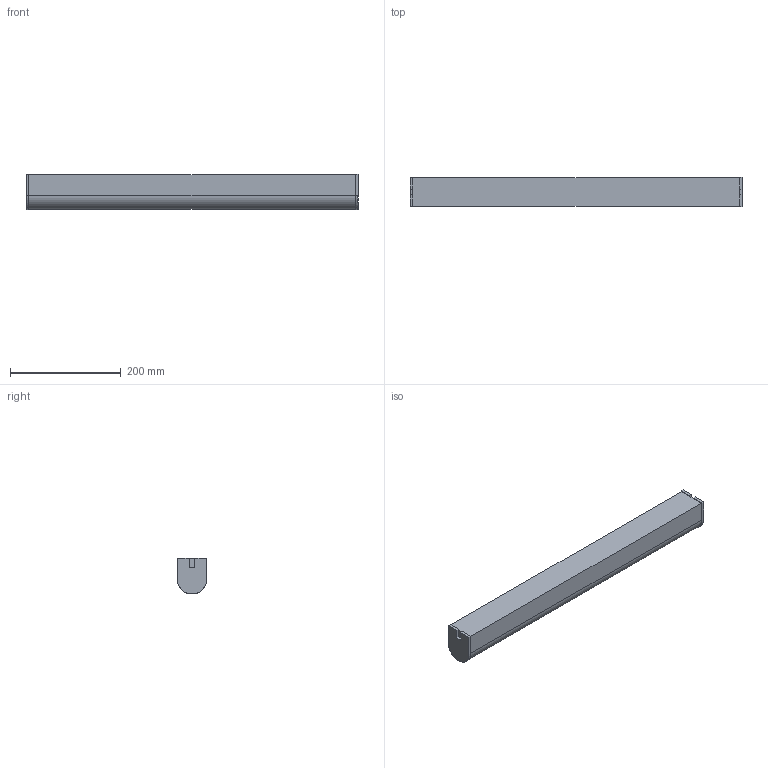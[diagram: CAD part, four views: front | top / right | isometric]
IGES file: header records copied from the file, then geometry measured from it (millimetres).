
Start section: SolidWorks IGES file using analytic representation for surfaces
Global section: file name: C:\Users\danielet\Desktop\3Ds\LOIRA-A3592-3D\LOIRA-A3592-3D.IGS; native system: SolidWorks 2018; preprocessor: SolidWorks 2018; author: danielet; date: 210730.130826; units: millimetre
Bounding box: 600 x 53 x 65 mm (x, y, z)
Surface area: 130745.6 mm2 (no closed solid volume)
Topology: 0 solids, 0 shells, 27 faces, 326 edges, 326 vertices
Faces by surface type: bspline 23, revolution 4
